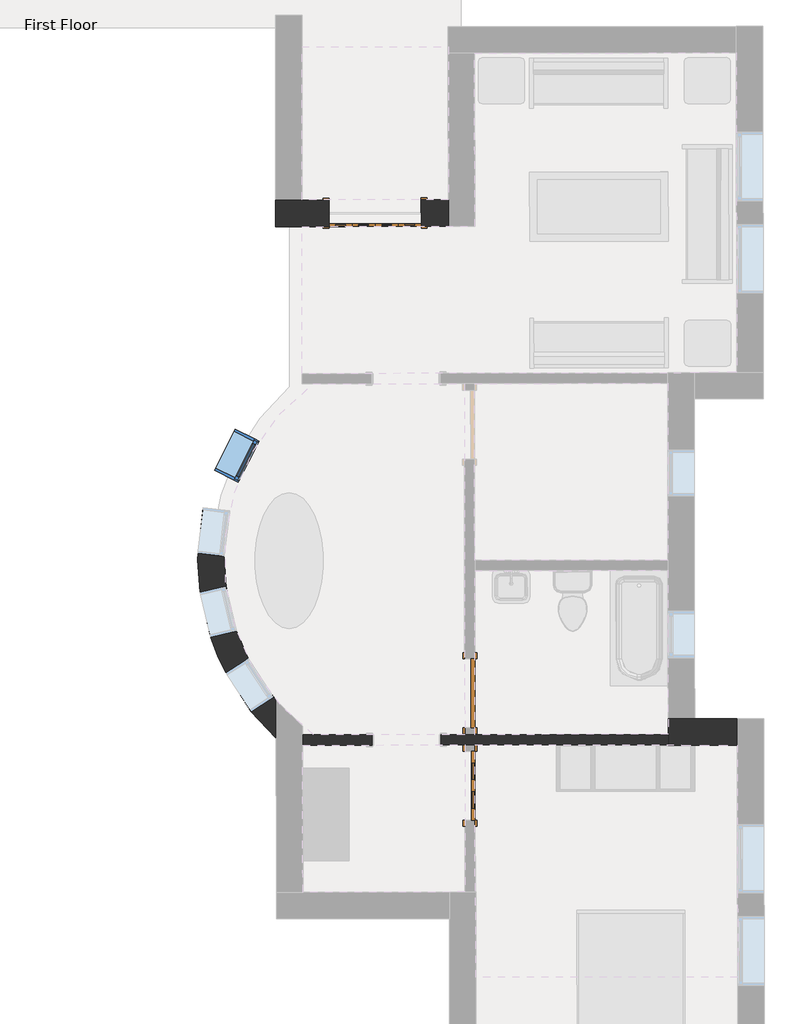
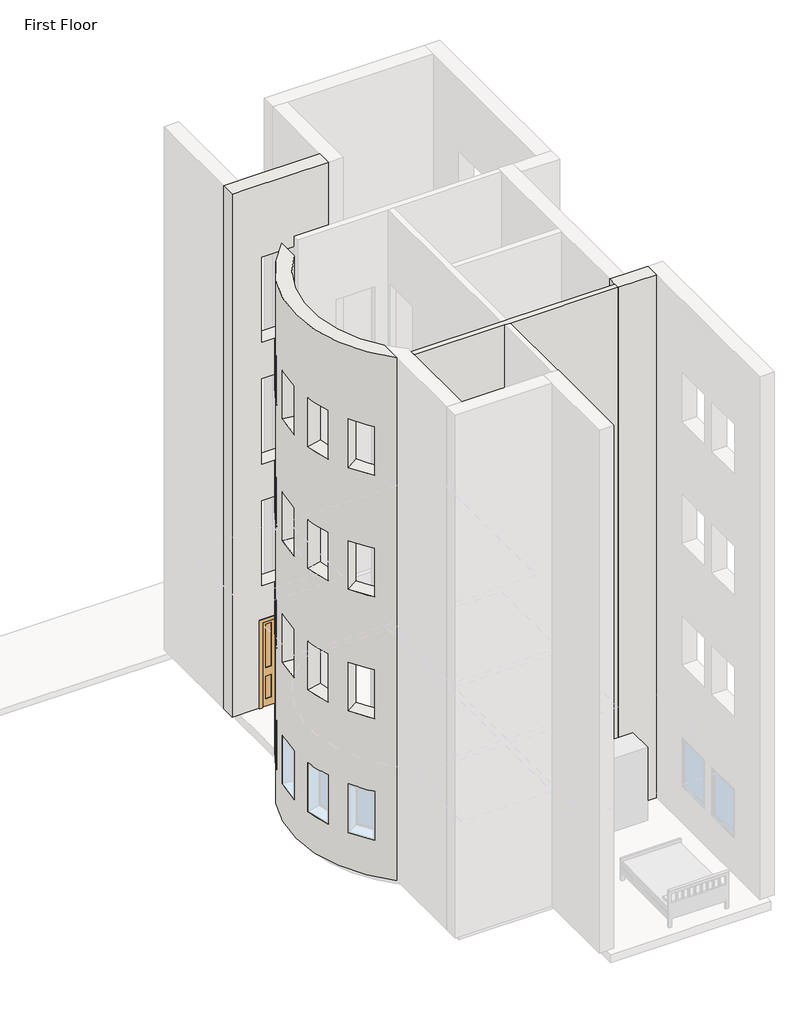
# One storey, part 12 of 22: 4 walls, 3 doors, 1 window.
"""IFC4 building model written with IfcOpenShell, lengths in millimetres."""

from ifc_helpers import new_model, si_unit, frame, origin, place, context, project, spatial, polyline, circle_curve, faceted_brep, transform, mapped, element, save
from ifc_brep_helpers import plane_surface, cylinder_surface, revolved_surface, advanced_brep
from components import m_bifold_4_panel_1220_x_2134mm_cde6dea2, m_single_decorative_2_0915_x_2134mm_0b11df3f, m_single_flush_0915_x_2134mm_08e0827a, m_fixed_0610_x_1220mm_2c28ef1d

model = new_model("IFC4")

# Units and contexts
model_context = context("Model", 3, world=origin())
ifc_project = project(units=[si_unit("LENGTHUNIT", "METRE", prefix="MILLI")], contexts=[model_context])

# Site, building, storey
site = spatial("IfcSite", under=ifc_project)
building = spatial("IfcBuilding", under=site)
storey = spatial("IfcBuildingStorey", under=building, Name="First Floor", Elevation=0.0)

# Doors
placement = place(None, origin())
m_bifold_4_panel_1220_x_2134mm_shape = m_bifold_4_panel_1220_x_2134mm_cde6dea2(model_context)
element("IfcDoor", 1, ObjectType="M_Bifold-4 Panel : 1220 x 2134mm", at=placement, inside=storey, context=model_context, shape_type="MappedRepresentation", body=[
    mapped(m_bifold_4_panel_1220_x_2134mm_shape, transform((-9050.8373063, -8240.6820888, 0.0), x_axis=(0.9999989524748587, 0.0014474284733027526, 0.0), y_axis=(-0.0014474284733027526, 0.9999989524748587, 0.0), z_axis=(0.0, 0.0, 1.0))),
])
m_single_decorative_2_0915_x_2134mm_shape = m_single_decorative_2_0915_x_2134mm_0b11df3f(model_context)
element("IfcDoor", 2, ObjectType="M_Single-Decorative 2 : 0915 x 2134mm", at=placement, inside=storey, context=model_context, shape_type="MappedRepresentation", body=[
    mapped(m_single_decorative_2_0915_x_2134mm_shape, transform((-7796.8898976, -15803.1250115, 0.0), x_axis=(-0.0014474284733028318, 0.9999989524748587, 0.0), y_axis=(-0.9999989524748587, -0.0014474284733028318, 0.0), z_axis=(0.0, 0.0, 1.0))),
])
m_single_flush_0915_x_2134mm_shape = m_single_flush_0915_x_2134mm_08e0827a(model_context)
element("IfcDoor", 3, ObjectType="M_Single-Flush : 0915 x 2134mm", at=placement, inside=storey, context=model_context, shape_type="MappedRepresentation", body=[
    mapped(m_single_flush_0915_x_2134mm_shape, transform((-7798.6557603, -14583.1262895, 0.0), x_axis=(0.0014474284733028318, -0.9999989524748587, 0.0), y_axis=(0.9999989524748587, 0.0014474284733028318, 0.0), z_axis=(0.0, 0.0, 1.0))),
])

# Walls
element("IfcWall", 4, ObjectType="Exterior - Brick on Mtl. Stud", at=placement, inside=storey, context=model_context, shape_type="Brep", body=[
    faceted_brep([(-4263.1691469, -14916.759275, 0.0), (-4827.5685557, -14917.5762036, 0.0), (-5177.5681891, -14918.0828036, 0.0), (-5177.5681891, -14918.0828036, 13107.0), (-4827.5685557, -14917.5762036, 13107.0), (-4263.1691469, -14916.759275, 13107.0), (-4262.662547, -15266.7589083, 0.0), (-4262.662547, -15266.7589083, 13107.0), (-5177.0615891, -15268.0824369, 13107.0), (-5177.0615891, -15268.0824369, 0.0), (-5177.072083, -15260.8324445, 0.0), (-5177.2682095, -15125.3325865, 0.0), (-5177.2682095, -15125.3325865, 13107.0), (-5177.072083, -15260.8324445, 13107.0)], [[[0, 1, 2, 3, 4, 5]], [[6, 7, 8, 9]], [[2, 1, 0, 6, 9, 10, 11]], [[5, 4, 3, 12, 13, 8, 7]], [[0, 5, 7, 6]], [[3, 2, 11, 10, 9, 8, 13, 12]]]),
])
element("IfcWall", 5, ObjectType="Exterior - Brick on Mtl. Stud", at=placement, inside=storey, context=model_context, shape_type="Brep", body=[
    faceted_brep([(-10369.0892257, -8067.5899829, 13107.0), (-10019.0916203, -8067.0833858, 13107.0), (-8083.0916203, -8064.2811614, 13107.0), (-8083.0916203, -8064.2811614, 0.0), (-8441.0912453, -8064.7993408, 0.0), (-8441.0912453, -8064.7993408, 2134.0), (-9661.0899673, -8066.5652035, 2134.0), (-9661.0899673, -8066.5652035, 0.0), (-10019.0916203, -8067.0833858, 0.0), (-10184.0894195, -8067.3222086, 0.0), (-10369.0892257, -8067.5899829, 0.0), (-8441.0912453, -8064.7993408, 9144.0), (-8441.0912453, -8064.7993408, 11278.0), (-9661.0899673, -8066.5652035, 11278.0), (-9661.0899673, -8066.5652035, 9144.0), (-8441.0912453, -8064.7993408, 3048.0), (-8441.0912453, -8064.7993408, 5182.0), (-9661.0899673, -8066.5652035, 5182.0), (-9661.0899673, -8066.5652035, 3048.0), (-8441.0912453, -8064.7993408, 6096.0), (-8441.0912453, -8064.7993408, 8230.0), (-9661.0899673, -8066.5652035, 8230.0), (-9661.0899673, -8066.5652035, 6096.0), (-8082.5850204, -8414.2807948, 13107.0), (-10018.5829924, -8417.0830163, 13107.0), (-10368.5826257, -8417.5896162, 13107.0), (-10368.5826257, -8417.5896162, 0.0), (-10183.5828195, -8417.321842, 0.0), (-10018.5829924, -8417.0830163, 0.0), (-9660.5833674, -8416.5648369, 0.0), (-9660.5833674, -8416.5648369, 2134.0), (-8440.5846453, -8414.7989741, 2134.0), (-8440.5846453, -8414.7989741, 0.0), (-8082.5850204, -8414.2807948, 0.0), (-8440.5846453, -8414.7989741, 9144.0), (-9660.5833674, -8416.5648369, 9144.0), (-9660.5833674, -8416.5648369, 11278.0), (-8440.5846453, -8414.7989741, 11278.0), (-8440.5846453, -8414.7989741, 3048.0), (-9660.5833674, -8416.5648369, 3048.0), (-9660.5833674, -8416.5648369, 5182.0), (-8440.5846453, -8414.7989741, 5182.0), (-8440.5846453, -8414.7989741, 6096.0), (-9660.5833674, -8416.5648369, 6096.0), (-9660.5833674, -8416.5648369, 8230.0), (-8440.5846453, -8414.7989741, 8230.0), (-8440.823471, -8249.799147, 0.0), (-9660.8221931, -8251.5650097, 0.0), (-10368.8214514, -8252.5897891, 0.0), (-10183.8216452, -8252.3220148, 0.0), (-8082.8238461, -8249.2809676, 0.0)], [[[0, 1, 2, 3, 4, 5, 6, 7, 8, 9, 10], [11, 12, 13, 14], [15, 16, 17, 18], [19, 20, 21, 22]], [[23, 24, 25, 26, 27, 28, 29, 30, 31, 32, 33], [34, 35, 36, 37], [38, 39, 40, 41], [42, 43, 44, 45]], [[2, 1, 0, 25, 24, 23]], [[31, 5, 4, 46, 32]], [[5, 31, 30, 6]], [[6, 30, 29, 47, 7]], [[27, 26, 48, 49]], [[49, 9, 8, 7, 47]], [[3, 50, 46, 4]], [[10, 9, 49, 48]], [[12, 11, 34, 37]], [[13, 12, 37, 36]], [[14, 13, 36, 35]], [[11, 14, 35, 34]], [[16, 15, 38, 41]], [[17, 16, 41, 40]], [[18, 17, 40, 39]], [[15, 18, 39, 38]], [[20, 19, 42, 45]], [[21, 20, 45, 44]], [[22, 21, 44, 43]], [[19, 22, 43, 42]], [[3, 2, 23, 33, 50]], [[0, 10, 48, 26, 25]], [[27, 49, 47, 29, 28]], [[50, 33, 32, 46]]]),
])
element("IfcWall", 6, ObjectType="Exterior - Brick on Mtl. Stud", at=placement, inside=storey, context=model_context, shape_type="AdvancedBrep", body=[
    advanced_brep(
    [(-10365.6395377, -10450.9093937, 13107.0), (-10358.7970277, -15178.2606268, 13107.0), (-10359.5284893, -14672.9086878, 13107.0), (-10364.9080761, -10956.2613328, 13107.0), (-10358.7970277, -15178.2606268, 0.0), (-10365.6395377, -10450.9093937, 0.0), (-10364.9080761, -10956.2613328, 0.0), (-10359.5284893, -14672.9086878, 0.0), (-10688.4725524, -14824.0876564, 2135.0), (-10688.4725524, -14824.0876564, 915.0), (-11022.6046276, -14313.7389949, 915.0), (-11022.6046276, -14313.7389949, 2135.0), (-11225.0349817, -13841.7363021, 2135.0), (-11225.0349817, -13841.7363021, 915.0), (-11364.4669047, -13247.8855306, 915.0), (-11364.4669047, -13247.8855306, 2135.0), (-11321.1690093, -12129.3871103, 915.0), (-11321.1690093, -12129.3871103, 2135.0), (-11393.2547862, -12735.1128244, 2135.0), (-11393.2547862, -12735.1128244, 915.0), (-10897.9333065, -11093.1511508, 915.0), (-10897.9333065, -11093.1511508, 2135.0), (-11172.8421746, -11637.6923468, 2135.0), (-11172.8421746, -11637.6923468, 915.0), (-11321.1690093, -12129.3871103, 10059.0), (-11321.1690093, -12129.3871103, 11279.0), (-11393.2547862, -12735.1128244, 11279.0), (-11393.2547862, -12735.1128244, 10059.0), (-10897.9333065, -11093.1511508, 10059.0), (-10897.9333065, -11093.1511508, 11279.0), (-11172.8421746, -11637.6923468, 11279.0), (-11172.8421746, -11637.6923468, 10059.0), (-11225.0349817, -13841.7363021, 10059.0), (-11364.4669047, -13247.8855306, 10059.0), (-11364.4669047, -13247.8855306, 11279.0), (-11225.0349817, -13841.7363021, 11279.0), (-10688.4725524, -14824.0876564, 10059.0), (-11022.6046276, -14313.7389949, 10059.0), (-11022.6046276, -14313.7389949, 11279.0), (-10688.4725524, -14824.0876564, 11279.0), (-11321.1690093, -12129.3871103, 3963.0), (-11321.1690093, -12129.3871103, 5183.0), (-11393.2547862, -12735.1128244, 5183.0), (-11393.2547862, -12735.1128244, 3963.0), (-10897.9333065, -11093.1511508, 3963.0), (-10897.9333065, -11093.1511508, 5183.0), (-11172.8421746, -11637.6923468, 5183.0), (-11172.8421746, -11637.6923468, 3963.0), (-11225.0349817, -13841.7363021, 3963.0), (-11364.4669047, -13247.8855306, 3963.0), (-11364.4669047, -13247.8855306, 5183.0), (-11225.0349817, -13841.7363021, 5183.0), (-10688.4725524, -14824.0876564, 3963.0), (-11022.6046276, -14313.7389949, 3963.0), (-11022.6046276, -14313.7389949, 5183.0), (-10688.4725524, -14824.0876564, 5183.0), (-11321.1690093, -12129.3871103, 7011.0), (-11321.1690093, -12129.3871103, 8231.0), (-11393.2547862, -12735.1128244, 8231.0), (-11393.2547862, -12735.1128244, 7011.0), (-10897.9333065, -11093.1511508, 7011.0), (-10897.9333065, -11093.1511508, 8231.0), (-11172.8421746, -11637.6923468, 8231.0), (-11172.8421746, -11637.6923468, 7011.0), (-11225.0349817, -13841.7363021, 7011.0), (-11364.4669047, -13247.8855306, 7011.0), (-11364.4669047, -13247.8855306, 8231.0), (-11225.0349817, -13841.7363021, 8231.0), (-10688.4725524, -14824.0876564, 7011.0), (-11022.6046276, -14313.7389949, 7011.0), (-11022.6046276, -14313.7389949, 8231.0), (-10688.4725524, -14824.0876564, 8231.0), (-10394.1674377, -14631.4021728, 915.0), (-10394.1674377, -14631.4021728, 2135.0), (-10728.2995129, -14121.0535112, 2135.0), (-10728.2995129, -14121.0535112, 915.0), (-10882.5763205, -13761.3294525, 915.0), (-10882.5763205, -13761.3294525, 2135.0), (-11022.0082435, -13167.4786809, 2135.0), (-11022.0082435, -13167.4786809, 915.0), (-10971.8623702, -12170.9571474, 915.0), (-11043.948147, -12776.6828616, 915.0), (-11043.948147, -12776.6828616, 2135.0), (-10971.8623702, -12170.9571474, 2135.0), (-10583.9102253, -11251.6841147, 915.0), (-10858.8190935, -11796.2253108, 915.0), (-10858.8190935, -11796.2253108, 2135.0), (-10583.9102253, -11251.6841147, 2135.0), (-10971.8623702, -12170.9571474, 10059.0), (-11043.948147, -12776.6828616, 10059.0), (-11043.948147, -12776.6828616, 11279.0), (-10971.8623702, -12170.9571474, 11279.0), (-10583.9102253, -11251.6841147, 10059.0), (-10858.8190935, -11796.2253108, 10059.0), (-10858.8190935, -11796.2253108, 11279.0), (-10583.9102253, -11251.6841147, 11279.0), (-10882.5763205, -13761.3294525, 10059.0), (-10882.5763205, -13761.3294525, 11279.0), (-11022.0082435, -13167.4786809, 11279.0), (-11022.0082435, -13167.4786809, 10059.0), (-10394.1674377, -14631.4021728, 10059.0), (-10394.1674377, -14631.4021728, 11279.0), (-10728.2995129, -14121.0535112, 11279.0), (-10728.2995129, -14121.0535112, 10059.0), (-10971.8623702, -12170.9571474, 3963.0), (-11043.948147, -12776.6828616, 3963.0), (-11043.948147, -12776.6828616, 5183.0), (-10971.8623702, -12170.9571474, 5183.0), (-10583.9102253, -11251.6841147, 3963.0), (-10858.8190935, -11796.2253108, 3963.0), (-10858.8190935, -11796.2253108, 5183.0), (-10583.9102253, -11251.6841147, 5183.0), (-10882.5763205, -13761.3294525, 3963.0), (-10882.5763205, -13761.3294525, 5183.0), (-11022.0082435, -13167.4786809, 5183.0), (-11022.0082435, -13167.4786809, 3963.0), (-10394.1674377, -14631.4021728, 3963.0), (-10394.1674377, -14631.4021728, 5183.0), (-10728.2995129, -14121.0535112, 5183.0), (-10728.2995129, -14121.0535112, 3963.0), (-10971.8623702, -12170.9571474, 7011.0), (-11043.948147, -12776.6828616, 7011.0), (-11043.948147, -12776.6828616, 8231.0), (-10971.8623702, -12170.9571474, 8231.0), (-10583.9102253, -11251.6841147, 7011.0), (-10858.8190935, -11796.2253108, 7011.0), (-10858.8190935, -11796.2253108, 8231.0), (-10583.9102253, -11251.6841147, 8231.0), (-10882.5763205, -13761.3294525, 7011.0), (-10882.5763205, -13761.3294525, 8231.0), (-11022.0082435, -13167.4786809, 8231.0), (-11022.0082435, -13167.4786809, 7011.0), (-10394.1674377, -14631.4021728, 7011.0), (-10394.1674377, -14631.4021728, 8231.0), (-10728.2995129, -14121.0535112, 8231.0), (-10728.2995129, -14121.0535112, 7011.0)],
    [
        (0, 1, circle_curve(frame((-8171.1580789, -12811.413604, 13107.0), z_axis=(0.0, 0.0, 1.0), x_axis=(-0.0014474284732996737, 0.9999989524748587, 0.0)), 3223.0)),
        (1, 2),
        (2, 3, circle_curve(frame((-8171.1580789, -12811.413604, 13107.0), z_axis=(0.0, 0.0, -1.0), x_axis=(-0.0014474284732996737, 0.9999989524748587, 0.0)), 2873.0)),
        (3, 0),
        (4, 5, circle_curve(frame((-8171.1580789, -12811.413604, 0.0), z_axis=(0.0, 0.0, -1.0), x_axis=(-0.0014474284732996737, 0.9999989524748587, 0.0)), 3223.0)),
        (5, 6),
        (6, 7, circle_curve(frame((-8171.1580789, -12811.413604, 0.0), z_axis=(0.0, 0.0, 1.0), x_axis=(-0.0014474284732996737, 0.9999989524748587, 0.0)), 2873.0)),
        (7, 4),
        (0, 5),
        (4, 1),
        (8, 9),
        (9, 10, circle_curve(frame((-8171.1580789, -12811.413604, 915.0), z_axis=(0.0, 0.0, -1.0), x_axis=(-0.0014474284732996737, 0.9999989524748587, 0.0)), 3223.0)),
        (10, 11),
        (11, 8, circle_curve(frame((-8171.1580789, -12811.413604, 2135.0), z_axis=(0.0, 0.0, 1.0), x_axis=(-0.0014474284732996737, 0.9999989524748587, 0.0)), 3223.0)),
        (12, 13),
        (13, 14, circle_curve(frame((-8171.1580789, -12811.413604, 915.0), z_axis=(0.0, 0.0, -1.0), x_axis=(-0.0014474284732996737, 0.9999989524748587, 0.0)), 3223.0)),
        (14, 15),
        (15, 12, circle_curve(frame((-8171.1580789, -12811.413604, 2135.0), z_axis=(0.0, 0.0, 1.0), x_axis=(-0.0014474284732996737, 0.9999989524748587, 0.0)), 3223.0)),
        (16, 17),
        (17, 18, circle_curve(frame((-8171.1580789, -12811.413604, 2135.0), z_axis=(0.0, 0.0, 1.0), x_axis=(-0.0014474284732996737, 0.9999989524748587, 0.0)), 3223.0)),
        (18, 19),
        (19, 16, circle_curve(frame((-8171.1580789, -12811.413604, 915.0), z_axis=(0.0, 0.0, -1.0), x_axis=(-0.0014474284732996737, 0.9999989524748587, 0.0)), 3223.0)),
        (20, 21),
        (21, 22, circle_curve(frame((-8171.1580789, -12811.413604, 2135.0), z_axis=(0.0, 0.0, 1.0), x_axis=(-0.0014474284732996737, 0.9999989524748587, 0.0)), 3223.0)),
        (22, 23),
        (23, 20, circle_curve(frame((-8171.1580789, -12811.413604, 915.0), z_axis=(0.0, 0.0, -1.0), x_axis=(-0.0014474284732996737, 0.9999989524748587, 0.0)), 3223.0)),
        (24, 25),
        (25, 26, circle_curve(frame((-8171.1580789, -12811.413604, 11279.0), z_axis=(0.0, 0.0, 1.0), x_axis=(-0.0014474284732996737, 0.9999989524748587, 0.0)), 3223.0)),
        (26, 27),
        (27, 24, circle_curve(frame((-8171.1580789, -12811.413604, 10059.0), z_axis=(0.0, 0.0, -1.0), x_axis=(-0.0014474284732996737, 0.9999989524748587, 0.0)), 3223.0)),
        (28, 29),
        (29, 30, circle_curve(frame((-8171.1580789, -12811.413604, 11279.0), z_axis=(0.0, 0.0, 1.0), x_axis=(-0.0014474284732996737, 0.9999989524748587, 0.0)), 3223.0)),
        (30, 31),
        (31, 28, circle_curve(frame((-8171.1580789, -12811.413604, 10059.0), z_axis=(0.0, 0.0, -1.0), x_axis=(-0.0014474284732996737, 0.9999989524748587, 0.0)), 3223.0)),
        (32, 33, circle_curve(frame((-8171.1580789, -12811.413604, 10059.0), z_axis=(0.0, 0.0, -1.0), x_axis=(-0.0014474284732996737, 0.9999989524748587, 0.0)), 3223.0)),
        (33, 34),
        (34, 35, circle_curve(frame((-8171.1580789, -12811.413604, 11279.0), z_axis=(0.0, 0.0, 1.0), x_axis=(-0.0014474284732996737, 0.9999989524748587, 0.0)), 3223.0)),
        (35, 32),
        (36, 37, circle_curve(frame((-8171.1580789, -12811.413604, 10059.0), z_axis=(0.0, 0.0, -1.0), x_axis=(-0.0014474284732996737, 0.9999989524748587, 0.0)), 3223.0)),
        (37, 38),
        (38, 39, circle_curve(frame((-8171.1580789, -12811.413604, 11279.0), z_axis=(0.0, 0.0, 1.0), x_axis=(-0.0014474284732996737, 0.9999989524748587, 0.0)), 3223.0)),
        (39, 36),
        (40, 41),
        (41, 42, circle_curve(frame((-8171.1580789, -12811.413604, 5183.0), z_axis=(0.0, 0.0, 1.0), x_axis=(-0.0014474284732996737, 0.9999989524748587, 0.0)), 3223.0)),
        (42, 43),
        (43, 40, circle_curve(frame((-8171.1580789, -12811.413604, 3963.0), z_axis=(0.0, 0.0, -1.0), x_axis=(-0.0014474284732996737, 0.9999989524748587, 0.0)), 3223.0)),
        (44, 45),
        (45, 46, circle_curve(frame((-8171.1580789, -12811.413604, 5183.0), z_axis=(0.0, 0.0, 1.0), x_axis=(-0.0014474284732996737, 0.9999989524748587, 0.0)), 3223.0)),
        (46, 47),
        (47, 44, circle_curve(frame((-8171.1580789, -12811.413604, 3963.0), z_axis=(0.0, 0.0, -1.0), x_axis=(-0.0014474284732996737, 0.9999989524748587, 0.0)), 3223.0)),
        (48, 49, circle_curve(frame((-8171.1580789, -12811.413604, 3963.0), z_axis=(0.0, 0.0, -1.0), x_axis=(-0.0014474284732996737, 0.9999989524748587, 0.0)), 3223.0)),
        (49, 50),
        (50, 51, circle_curve(frame((-8171.1580789, -12811.413604, 5183.0), z_axis=(0.0, 0.0, 1.0), x_axis=(-0.0014474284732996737, 0.9999989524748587, 0.0)), 3223.0)),
        (51, 48),
        (52, 53, circle_curve(frame((-8171.1580789, -12811.413604, 3963.0), z_axis=(0.0, 0.0, -1.0), x_axis=(-0.0014474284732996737, 0.9999989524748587, 0.0)), 3223.0)),
        (53, 54),
        (54, 55, circle_curve(frame((-8171.1580789, -12811.413604, 5183.0), z_axis=(0.0, 0.0, 1.0), x_axis=(-0.0014474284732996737, 0.9999989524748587, 0.0)), 3223.0)),
        (55, 52),
        (56, 57),
        (57, 58, circle_curve(frame((-8171.1580789, -12811.413604, 8231.0), z_axis=(0.0, 0.0, 1.0), x_axis=(-0.0014474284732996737, 0.9999989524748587, 0.0)), 3223.0)),
        (58, 59),
        (59, 56, circle_curve(frame((-8171.1580789, -12811.413604, 7011.0), z_axis=(0.0, 0.0, -1.0), x_axis=(-0.0014474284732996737, 0.9999989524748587, 0.0)), 3223.0)),
        (60, 61),
        (61, 62, circle_curve(frame((-8171.1580789, -12811.413604, 8231.0), z_axis=(0.0, 0.0, 1.0), x_axis=(-0.0014474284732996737, 0.9999989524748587, 0.0)), 3223.0)),
        (62, 63),
        (63, 60, circle_curve(frame((-8171.1580789, -12811.413604, 7011.0), z_axis=(0.0, 0.0, -1.0), x_axis=(-0.0014474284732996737, 0.9999989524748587, 0.0)), 3223.0)),
        (64, 65, circle_curve(frame((-8171.1580789, -12811.413604, 7011.0), z_axis=(0.0, 0.0, -1.0), x_axis=(-0.0014474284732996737, 0.9999989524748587, 0.0)), 3223.0)),
        (65, 66),
        (66, 67, circle_curve(frame((-8171.1580789, -12811.413604, 8231.0), z_axis=(0.0, 0.0, 1.0), x_axis=(-0.0014474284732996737, 0.9999989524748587, 0.0)), 3223.0)),
        (67, 64),
        (68, 69, circle_curve(frame((-8171.1580789, -12811.413604, 7011.0), z_axis=(0.0, 0.0, -1.0), x_axis=(-0.0014474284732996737, 0.9999989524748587, 0.0)), 3223.0)),
        (69, 70),
        (70, 71, circle_curve(frame((-8171.1580789, -12811.413604, 8231.0), z_axis=(0.0, 0.0, 1.0), x_axis=(-0.0014474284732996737, 0.9999989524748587, 0.0)), 3223.0)),
        (71, 68),
        (2, 7),
        (6, 3),
        (72, 73),
        (73, 74, circle_curve(frame((-8171.1580789, -12811.413604, 2135.0), z_axis=(0.0, 0.0, -1.0), x_axis=(-0.0014474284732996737, 0.9999989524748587, 0.0)), 2873.0)),
        (74, 75),
        (75, 72, circle_curve(frame((-8171.1580789, -12811.413604, 915.0), z_axis=(0.0, 0.0, 1.0), x_axis=(-0.0014474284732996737, 0.9999989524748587, 0.0)), 2873.0)),
        (76, 77),
        (77, 78, circle_curve(frame((-8171.1580789, -12811.413604, 2135.0), z_axis=(0.0, 0.0, -1.0), x_axis=(-0.0014474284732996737, 0.9999989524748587, 0.0)), 2873.0)),
        (78, 79),
        (79, 76, circle_curve(frame((-8171.1580789, -12811.413604, 915.0), z_axis=(0.0, 0.0, 1.0), x_axis=(-0.0014474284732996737, 0.9999989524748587, 0.0)), 2873.0)),
        (80, 81, circle_curve(frame((-8171.1580789, -12811.413604, 915.0), z_axis=(0.0, 0.0, 1.0), x_axis=(-0.0014474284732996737, 0.9999989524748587, 0.0)), 2873.0)),
        (81, 82),
        (82, 83, circle_curve(frame((-8171.1580789, -12811.413604, 2135.0), z_axis=(0.0, 0.0, -1.0), x_axis=(-0.0014474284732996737, 0.9999989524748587, 0.0)), 2873.0)),
        (83, 80),
        (84, 85, circle_curve(frame((-8171.1580789, -12811.413604, 915.0), z_axis=(0.0, 0.0, 1.0), x_axis=(-0.0014474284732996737, 0.9999989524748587, 0.0)), 2873.0)),
        (85, 86),
        (86, 87, circle_curve(frame((-8171.1580789, -12811.413604, 2135.0), z_axis=(0.0, 0.0, -1.0), x_axis=(-0.0014474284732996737, 0.9999989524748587, 0.0)), 2873.0)),
        (87, 84),
        (88, 89, circle_curve(frame((-8171.1580789, -12811.413604, 10059.0), z_axis=(0.0, 0.0, 1.0), x_axis=(-0.0014474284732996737, 0.9999989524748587, 0.0)), 2873.0)),
        (89, 90),
        (90, 91, circle_curve(frame((-8171.1580789, -12811.413604, 11279.0), z_axis=(0.0, 0.0, -1.0), x_axis=(-0.0014474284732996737, 0.9999989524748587, 0.0)), 2873.0)),
        (91, 88),
        (92, 93, circle_curve(frame((-8171.1580789, -12811.413604, 10059.0), z_axis=(0.0, 0.0, 1.0), x_axis=(-0.0014474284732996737, 0.9999989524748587, 0.0)), 2873.0)),
        (93, 94),
        (94, 95, circle_curve(frame((-8171.1580789, -12811.413604, 11279.0), z_axis=(0.0, 0.0, -1.0), x_axis=(-0.0014474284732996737, 0.9999989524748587, 0.0)), 2873.0)),
        (95, 92),
        (96, 97),
        (97, 98, circle_curve(frame((-8171.1580789, -12811.413604, 11279.0), z_axis=(0.0, 0.0, -1.0), x_axis=(-0.0014474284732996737, 0.9999989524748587, 0.0)), 2873.0)),
        (98, 99),
        (99, 96, circle_curve(frame((-8171.1580789, -12811.413604, 10059.0), z_axis=(0.0, 0.0, 1.0), x_axis=(-0.0014474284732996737, 0.9999989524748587, 0.0)), 2873.0)),
        (100, 101),
        (101, 102, circle_curve(frame((-8171.1580789, -12811.413604, 11279.0), z_axis=(0.0, 0.0, -1.0), x_axis=(-0.0014474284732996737, 0.9999989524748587, 0.0)), 2873.0)),
        (102, 103),
        (103, 100, circle_curve(frame((-8171.1580789, -12811.413604, 10059.0), z_axis=(0.0, 0.0, 1.0), x_axis=(-0.0014474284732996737, 0.9999989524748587, 0.0)), 2873.0)),
        (104, 105, circle_curve(frame((-8171.1580789, -12811.413604, 3963.0), z_axis=(0.0, 0.0, 1.0), x_axis=(-0.0014474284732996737, 0.9999989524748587, 0.0)), 2873.0)),
        (105, 106),
        (106, 107, circle_curve(frame((-8171.1580789, -12811.413604, 5183.0), z_axis=(0.0, 0.0, -1.0), x_axis=(-0.0014474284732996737, 0.9999989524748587, 0.0)), 2873.0)),
        (107, 104),
        (108, 109, circle_curve(frame((-8171.1580789, -12811.413604, 3963.0), z_axis=(0.0, 0.0, 1.0), x_axis=(-0.0014474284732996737, 0.9999989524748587, 0.0)), 2873.0)),
        (109, 110),
        (110, 111, circle_curve(frame((-8171.1580789, -12811.413604, 5183.0), z_axis=(0.0, 0.0, -1.0), x_axis=(-0.0014474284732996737, 0.9999989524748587, 0.0)), 2873.0)),
        (111, 108),
        (112, 113),
        (113, 114, circle_curve(frame((-8171.1580789, -12811.413604, 5183.0), z_axis=(0.0, 0.0, -1.0), x_axis=(-0.0014474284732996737, 0.9999989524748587, 0.0)), 2873.0)),
        (114, 115),
        (115, 112, circle_curve(frame((-8171.1580789, -12811.413604, 3963.0), z_axis=(0.0, 0.0, 1.0), x_axis=(-0.0014474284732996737, 0.9999989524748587, 0.0)), 2873.0)),
        (116, 117),
        (117, 118, circle_curve(frame((-8171.1580789, -12811.413604, 5183.0), z_axis=(0.0, 0.0, -1.0), x_axis=(-0.0014474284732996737, 0.9999989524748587, 0.0)), 2873.0)),
        (118, 119),
        (119, 116, circle_curve(frame((-8171.1580789, -12811.413604, 3963.0), z_axis=(0.0, 0.0, 1.0), x_axis=(-0.0014474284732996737, 0.9999989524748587, 0.0)), 2873.0)),
        (120, 121, circle_curve(frame((-8171.1580789, -12811.413604, 7011.0), z_axis=(0.0, 0.0, 1.0), x_axis=(-0.0014474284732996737, 0.9999989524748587, 0.0)), 2873.0)),
        (121, 122),
        (122, 123, circle_curve(frame((-8171.1580789, -12811.413604, 8231.0), z_axis=(0.0, 0.0, -1.0), x_axis=(-0.0014474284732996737, 0.9999989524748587, 0.0)), 2873.0)),
        (123, 120),
        (124, 125, circle_curve(frame((-8171.1580789, -12811.413604, 7011.0), z_axis=(0.0, 0.0, 1.0), x_axis=(-0.0014474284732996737, 0.9999989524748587, 0.0)), 2873.0)),
        (125, 126),
        (126, 127, circle_curve(frame((-8171.1580789, -12811.413604, 8231.0), z_axis=(0.0, 0.0, -1.0), x_axis=(-0.0014474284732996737, 0.9999989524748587, 0.0)), 2873.0)),
        (127, 124),
        (128, 129),
        (129, 130, circle_curve(frame((-8171.1580789, -12811.413604, 8231.0), z_axis=(0.0, 0.0, -1.0), x_axis=(-0.0014474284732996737, 0.9999989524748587, 0.0)), 2873.0)),
        (130, 131),
        (131, 128, circle_curve(frame((-8171.1580789, -12811.413604, 7011.0), z_axis=(0.0, 0.0, 1.0), x_axis=(-0.0014474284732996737, 0.9999989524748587, 0.0)), 2873.0)),
        (132, 133),
        (133, 134, circle_curve(frame((-8171.1580789, -12811.413604, 8231.0), z_axis=(0.0, 0.0, -1.0), x_axis=(-0.0014474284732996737, 0.9999989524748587, 0.0)), 2873.0)),
        (134, 135),
        (135, 132, circle_curve(frame((-8171.1580789, -12811.413604, 7011.0), z_axis=(0.0, 0.0, 1.0), x_axis=(-0.0014474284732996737, 0.9999989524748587, 0.0)), 2873.0)),
        (72, 9),
        (8, 73),
        (11, 74),
        (10, 75),
        (76, 13),
        (12, 77),
        (15, 78),
        (14, 79),
        (16, 80),
        (83, 17),
        (82, 18),
        (81, 19),
        (20, 84),
        (87, 21),
        (86, 22),
        (85, 23),
        (24, 88),
        (91, 25),
        (90, 26),
        (89, 27),
        (28, 92),
        (95, 29),
        (94, 30),
        (93, 31),
        (96, 32),
        (35, 97),
        (34, 98),
        (33, 99),
        (100, 36),
        (39, 101),
        (38, 102),
        (37, 103),
        (40, 104),
        (107, 41),
        (106, 42),
        (105, 43),
        (44, 108),
        (111, 45),
        (110, 46),
        (109, 47),
        (112, 48),
        (51, 113),
        (50, 114),
        (49, 115),
        (116, 52),
        (55, 117),
        (54, 118),
        (53, 119),
        (56, 120),
        (123, 57),
        (122, 58),
        (121, 59),
        (60, 124),
        (127, 61),
        (126, 62),
        (125, 63),
        (128, 64),
        (67, 129),
        (66, 130),
        (65, 131),
        (132, 68),
        (71, 133),
        (70, 134),
        (69, 135),
    ],
    [
        plane_surface(frame((-8175.8231409, -9588.4169802, 13107.0), z_axis=(0.0, 0.0, 1.0000000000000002), x_axis=(-0.9999989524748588, -0.0014474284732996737, 0.0))),
        plane_surface(frame((-8175.8231409, -9588.4169802, 0.0), z_axis=(0.0, 0.0, -1.0000000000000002), x_axis=(0.9999989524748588, 0.0014474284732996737, 0.0))),
        cylinder_surface(frame((-8171.1580789, -12811.413604, 0.0), z_axis=(0.0, 0.0, 1.0), x_axis=(-0.0014474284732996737, 0.9999989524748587, 0.0)), 3223.0),
        revolved_surface(polyline([(-8175.31654090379, -9938.41661353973, 0.0), (-8175.31654090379, -9938.41661353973, 13107.0)]), (-8171.1580789, -12811.413604, 0.0), (0.0, 0.0, -1.0)),
        plane_surface(frame((-10368.8359257, -8242.5897996, 0.0), z_axis=(0.9999989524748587, 0.0014474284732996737, 0.0), x_axis=(0.0014474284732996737, -0.9999989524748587, 0.0))),
        plane_surface(frame((-10355.6006397, -17386.580221, 0.0), z_axis=(0.9999989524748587, 0.0014474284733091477, 0.0), x_axis=(0.0014474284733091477, -0.9999989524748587, 0.0))),
        plane_surface(frame((-10394.1674377, -14631.4021728, 915.0), z_axis=(-0.5477575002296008, 0.8366371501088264, 0.0), x_axis=(-0.8366371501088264, -0.5477575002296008, 0.0))),
        plane_surface(frame((-10394.1674377, -14631.4021728, 2135.0), z_axis=(0.0, 0.0, -1.0), x_axis=(-0.8366371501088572, -0.5477575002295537, 0.0))),
        plane_surface(frame((-10728.2995129, -14121.0535112, 2135.0), z_axis=(0.5477575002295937, -0.8366371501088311, 0.0), x_axis=(-0.8366371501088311, -0.5477575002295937, 0.0))),
        plane_surface(frame((-10728.2995129, -14121.0535112, 915.0), z_axis=(0.0, 0.0, 1.0), x_axis=(-0.8366371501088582, -0.5477575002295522, 0.0))),
        plane_surface(frame((-12708.6883847, -14190.0875327, 915.0), z_axis=(-0.2285769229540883, 0.9735258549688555, 0.0), x_axis=(0.9735258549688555, 0.2285769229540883, 0.0))),
        plane_surface(frame((-12708.6883847, -14190.0875327, 2135.0), z_axis=(0.0, 0.0, -1.0), x_axis=(0.9735258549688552, 0.22857692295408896, 0.0))),
        plane_surface(frame((-12848.1203077, -13596.2367612, 2135.0), z_axis=(0.2285769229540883, -0.9735258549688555, 0.0), x_axis=(0.9735258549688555, 0.2285769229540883, 0.0))),
        plane_surface(frame((-12848.1203077, -13596.2367612, 915.0), z_axis=(0.0, 0.0, 1.0000000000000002), x_axis=(0.9735258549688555, 0.2285769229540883, 0.0))),
        plane_surface(frame((-11321.1690093, -12129.3871103, 915.0), z_axis=(-0.11817340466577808, -0.9929929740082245, 0.0), x_axis=(0.9929929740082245, -0.11817340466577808, 0.0))),
        plane_surface(frame((-11321.1690093, -12129.3871103, 2135.0), z_axis=(0.0, 0.0, -1.0), x_axis=(0.9929929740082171, -0.11817340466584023, 0.0))),
        plane_surface(frame((-11393.2547862, -12735.1128244, 2135.0), z_axis=(0.11817340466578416, 0.9929929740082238, 0.0), x_axis=(0.9929929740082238, -0.11817340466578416, 0.0))),
        plane_surface(frame((-11393.2547862, -12735.1128244, 915.0), z_axis=(0.0, 0.0, 1.0000000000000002), x_axis=(0.9929929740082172, -0.11817340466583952, 0.0))),
        plane_surface(frame((-10897.9333065, -11093.1511508, 915.0), z_axis=(-0.450670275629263, -0.8926904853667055, 0.0), x_axis=(0.8926904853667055, -0.450670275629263, 0.0))),
        plane_surface(frame((-10897.9333065, -11093.1511508, 2135.0), z_axis=(0.0, 0.0, -1.0), x_axis=(0.8926904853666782, -0.4506702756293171, 0.0))),
        plane_surface(frame((-11172.8421746, -11637.6923468, 2135.0), z_axis=(0.4506702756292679, 0.8926904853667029, 0.0), x_axis=(0.8926904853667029, -0.4506702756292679, 0.0))),
        plane_surface(frame((-11172.8421746, -11637.6923468, 915.0), z_axis=(0.0, 0.0, 1.0000000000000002), x_axis=(0.8926904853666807, -0.45067027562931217, 0.0))),
        plane_surface(frame((-11321.1690093, -12129.3871103, 10059.0), z_axis=(-0.11817340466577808, -0.9929929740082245, 0.0), x_axis=(0.9929929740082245, -0.11817340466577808, 0.0))),
        plane_surface(frame((-11321.1690093, -12129.3871103, 11279.0), z_axis=(0.0, 0.0, -1.0000000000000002), x_axis=(0.9929929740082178, -0.11817340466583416, 0.0))),
        plane_surface(frame((-11393.2547862, -12735.1128244, 11279.0), z_axis=(0.11817340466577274, 0.9929929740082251, 0.0), x_axis=(0.9929929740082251, -0.11817340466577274, 0.0))),
        plane_surface(frame((-11393.2547862, -12735.1128244, 10059.0), z_axis=(0.0, 0.0, 1.0), x_axis=(0.992992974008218, -0.11817340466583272, 0.0))),
        plane_surface(frame((-10897.9333065, -11093.1511508, 10059.0), z_axis=(-0.45067027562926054, -0.8926904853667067, 0.0), x_axis=(0.8926904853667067, -0.45067027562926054, 0.0))),
        plane_surface(frame((-10897.9333065, -11093.1511508, 11279.0), z_axis=(0.0, 0.0, -1.0), x_axis=(0.892690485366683, -0.4506702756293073, 0.0))),
        plane_surface(frame((-11172.8421746, -11637.6923468, 11279.0), z_axis=(0.45067027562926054, 0.8926904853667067, 0.0), x_axis=(0.8926904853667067, -0.45067027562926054, 0.0))),
        plane_surface(frame((-11172.8421746, -11637.6923468, 10059.0), z_axis=(0.0, 0.0, 1.0000000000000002), x_axis=(0.8926904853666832, -0.4506702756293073, 0.0))),
        plane_surface(frame((-10882.5763205, -13761.3294525, 10059.0), z_axis=(-0.22857692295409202, 0.9735258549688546, 0.0), x_axis=(-0.9735258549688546, -0.22857692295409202, 0.0))),
        plane_surface(frame((-10882.5763205, -13761.3294525, 11279.0), z_axis=(0.0, 0.0, -1.0), x_axis=(-0.9735258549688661, -0.22857692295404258, 0.0))),
        plane_surface(frame((-11022.0082435, -13167.4786809, 11279.0), z_axis=(0.22857692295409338, -0.9735258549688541, 0.0), x_axis=(-0.9735258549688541, -0.22857692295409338, 0.0))),
        plane_surface(frame((-11022.0082435, -13167.4786809, 10059.0), z_axis=(0.0, 0.0, 1.0), x_axis=(-0.9735258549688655, -0.22857692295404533, 0.0))),
        plane_surface(frame((-10394.1674377, -14631.4021728, 10059.0), z_axis=(-0.5477575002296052, 0.8366371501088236, 0.0), x_axis=(-0.8366371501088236, -0.5477575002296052, 0.0))),
        plane_surface(frame((-10394.1674377, -14631.4021728, 11279.0), z_axis=(0.0, 0.0, -1.0000000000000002), x_axis=(-0.8366371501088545, -0.547757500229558, 0.0))),
        plane_surface(frame((-10728.2995129, -14121.0535112, 11279.0), z_axis=(0.547757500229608, -0.8366371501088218, 0.0), x_axis=(-0.8366371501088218, -0.547757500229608, 0.0))),
        plane_surface(frame((-10728.2995129, -14121.0535112, 10059.0), z_axis=(0.0, 0.0, 1.0), x_axis=(-0.8366371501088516, -0.5477575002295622, 0.0))),
        plane_surface(frame((-11321.1690093, -12129.3871103, 3963.0), z_axis=(-0.11817340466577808, -0.9929929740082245, 0.0), x_axis=(0.9929929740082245, -0.11817340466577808, 0.0))),
        plane_surface(frame((-11321.1690093, -12129.3871103, 5183.0), z_axis=(0.0, 0.0, -1.0000000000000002), x_axis=(0.9929929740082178, -0.11817340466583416, 0.0))),
        plane_surface(frame((-11393.2547862, -12735.1128244, 5183.0), z_axis=(0.11817340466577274, 0.9929929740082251, 0.0), x_axis=(0.9929929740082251, -0.11817340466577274, 0.0))),
        plane_surface(frame((-11393.2547862, -12735.1128244, 3963.0), z_axis=(0.0, 0.0, 1.0), x_axis=(0.992992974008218, -0.11817340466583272, 0.0))),
        plane_surface(frame((-10897.9333065, -11093.1511508, 3963.0), z_axis=(-0.45067027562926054, -0.8926904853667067, 0.0), x_axis=(0.8926904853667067, -0.45067027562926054, 0.0))),
        plane_surface(frame((-10897.9333065, -11093.1511508, 5183.0), z_axis=(0.0, 0.0, -1.0), x_axis=(0.892690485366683, -0.4506702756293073, 0.0))),
        plane_surface(frame((-11172.8421746, -11637.6923468, 5183.0), z_axis=(0.45067027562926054, 0.8926904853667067, 0.0), x_axis=(0.8926904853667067, -0.45067027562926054, 0.0))),
        plane_surface(frame((-11172.8421746, -11637.6923468, 3963.0), z_axis=(0.0, 0.0, 1.0000000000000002), x_axis=(0.8926904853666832, -0.4506702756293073, 0.0))),
        plane_surface(frame((-10882.5763205, -13761.3294525, 3963.0), z_axis=(-0.22857692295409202, 0.9735258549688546, 0.0), x_axis=(-0.9735258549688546, -0.22857692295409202, 0.0))),
        plane_surface(frame((-10882.5763205, -13761.3294525, 5183.0), z_axis=(0.0, 0.0, -1.0), x_axis=(-0.9735258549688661, -0.22857692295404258, 0.0))),
        plane_surface(frame((-11022.0082435, -13167.4786809, 5183.0), z_axis=(0.22857692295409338, -0.9735258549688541, 0.0), x_axis=(-0.9735258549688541, -0.22857692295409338, 0.0))),
        plane_surface(frame((-11022.0082435, -13167.4786809, 3963.0), z_axis=(0.0, 0.0, 1.0), x_axis=(-0.9735258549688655, -0.22857692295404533, 0.0))),
        plane_surface(frame((-10394.1674377, -14631.4021728, 3963.0), z_axis=(-0.5477575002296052, 0.8366371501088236, 0.0), x_axis=(-0.8366371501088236, -0.5477575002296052, 0.0))),
        plane_surface(frame((-10394.1674377, -14631.4021728, 5183.0), z_axis=(0.0, 0.0, -1.0000000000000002), x_axis=(-0.8366371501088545, -0.547757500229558, 0.0))),
        plane_surface(frame((-10728.2995129, -14121.0535112, 5183.0), z_axis=(0.547757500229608, -0.8366371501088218, 0.0), x_axis=(-0.8366371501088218, -0.547757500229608, 0.0))),
        plane_surface(frame((-10728.2995129, -14121.0535112, 3963.0), z_axis=(0.0, 0.0, 1.0), x_axis=(-0.8366371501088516, -0.5477575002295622, 0.0))),
        plane_surface(frame((-11321.1690093, -12129.3871103, 7011.0), z_axis=(-0.11817340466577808, -0.9929929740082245, 0.0), x_axis=(0.9929929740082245, -0.11817340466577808, 0.0))),
        plane_surface(frame((-11321.1690093, -12129.3871103, 8231.0), z_axis=(0.0, 0.0, -1.0000000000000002), x_axis=(0.9929929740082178, -0.11817340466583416, 0.0))),
        plane_surface(frame((-11393.2547862, -12735.1128244, 8231.0), z_axis=(0.11817340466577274, 0.9929929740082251, 0.0), x_axis=(0.9929929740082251, -0.11817340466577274, 0.0))),
        plane_surface(frame((-11393.2547862, -12735.1128244, 7011.0), z_axis=(0.0, 0.0, 1.0), x_axis=(0.992992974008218, -0.11817340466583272, 0.0))),
        plane_surface(frame((-10897.9333065, -11093.1511508, 7011.0), z_axis=(-0.45067027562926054, -0.8926904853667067, 0.0), x_axis=(0.8926904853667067, -0.45067027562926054, 0.0))),
        plane_surface(frame((-10897.9333065, -11093.1511508, 8231.0), z_axis=(0.0, 0.0, -1.0), x_axis=(0.892690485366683, -0.4506702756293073, 0.0))),
        plane_surface(frame((-11172.8421746, -11637.6923468, 8231.0), z_axis=(0.45067027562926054, 0.8926904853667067, 0.0), x_axis=(0.8926904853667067, -0.45067027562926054, 0.0))),
        plane_surface(frame((-11172.8421746, -11637.6923468, 7011.0), z_axis=(0.0, 0.0, 1.0000000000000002), x_axis=(0.8926904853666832, -0.4506702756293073, 0.0))),
        plane_surface(frame((-10882.5763205, -13761.3294525, 7011.0), z_axis=(-0.22857692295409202, 0.9735258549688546, 0.0), x_axis=(-0.9735258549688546, -0.22857692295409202, 0.0))),
        plane_surface(frame((-10882.5763205, -13761.3294525, 8231.0), z_axis=(0.0, 0.0, -1.0), x_axis=(-0.9735258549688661, -0.22857692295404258, 0.0))),
        plane_surface(frame((-11022.0082435, -13167.4786809, 8231.0), z_axis=(0.22857692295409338, -0.9735258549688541, 0.0), x_axis=(-0.9735258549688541, -0.22857692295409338, 0.0))),
        plane_surface(frame((-11022.0082435, -13167.4786809, 7011.0), z_axis=(0.0, 0.0, 1.0), x_axis=(-0.9735258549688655, -0.22857692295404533, 0.0))),
        plane_surface(frame((-10394.1674377, -14631.4021728, 7011.0), z_axis=(-0.5477575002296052, 0.8366371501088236, 0.0), x_axis=(-0.8366371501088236, -0.5477575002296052, 0.0))),
        plane_surface(frame((-10394.1674377, -14631.4021728, 8231.0), z_axis=(0.0, 0.0, -1.0000000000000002), x_axis=(-0.8366371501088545, -0.547757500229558, 0.0))),
        plane_surface(frame((-10728.2995129, -14121.0535112, 8231.0), z_axis=(0.547757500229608, -0.8366371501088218, 0.0), x_axis=(-0.8366371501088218, -0.547757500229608, 0.0))),
        plane_surface(frame((-10728.2995129, -14121.0535112, 7011.0), z_axis=(0.0, 0.0, 1.0), x_axis=(-0.8366371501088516, -0.5477575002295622, 0.0))),
    ],
    [
        (0, [[1, 2, 3, 4]]),
        (1, [[5, 6, 7, 8]]),
        (2, [[-1, 9, -5, 10], [11, 12, 13, 14], [15, 16, 17, 18], [19, 20, 21, 22], [23, 24, 25, 26], [27, 28, 29, 30], [31, 32, 33, 34], [35, 36, 37, 38], [39, 40, 41, 42], [43, 44, 45, 46], [47, 48, 49, 50], [51, 52, 53, 54], [55, 56, 57, 58], [59, 60, 61, 62], [63, 64, 65, 66], [67, 68, 69, 70], [71, 72, 73, 74]]),
        (3, [[-3, 75, -7, 76], [77, 78, 79, 80], [81, 82, 83, 84], [85, 86, 87, 88], [89, 90, 91, 92], [93, 94, 95, 96], [97, 98, 99, 100], [101, 102, 103, 104], [105, 106, 107, 108], [109, 110, 111, 112], [113, 114, 115, 116], [117, 118, 119, 120], [121, 122, 123, 124], [125, 126, 127, 128], [129, 130, 131, 132], [133, 134, 135, 136], [137, 138, 139, 140]]),
        (4, [[-4, -76, -6, -9]]),
        (5, [[-2, -10, -8, -75]]),
        (6, [[-77, 141, -11, 142]]),
        (7, [[-78, -142, -14, 143]]),
        (8, [[-79, -143, -13, 144]]),
        (9, [[-80, -144, -12, -141]]),
        (10, [[145, -15, 146, -81]]),
        (11, [[-146, -18, 147, -82]]),
        (12, [[-147, -17, 148, -83]]),
        (13, [[-145, -84, -148, -16]]),
        (14, [[-19, 149, -88, 150]]),
        (15, [[-20, -150, -87, 151]]),
        (16, [[-21, -151, -86, 152]]),
        (17, [[-22, -152, -85, -149]]),
        (18, [[-23, 153, -92, 154]]),
        (19, [[-24, -154, -91, 155]]),
        (20, [[-25, -155, -90, 156]]),
        (21, [[-26, -156, -89, -153]]),
        (22, [[-27, 157, -96, 158]]),
        (23, [[-28, -158, -95, 159]]),
        (24, [[-29, -159, -94, 160]]),
        (25, [[-30, -160, -93, -157]]),
        (26, [[-31, 161, -100, 162]]),
        (27, [[-32, -162, -99, 163]]),
        (28, [[-33, -163, -98, 164]]),
        (29, [[-34, -164, -97, -161]]),
        (30, [[-101, 165, -38, 166]]),
        (31, [[-102, -166, -37, 167]]),
        (32, [[-103, -167, -36, 168]]),
        (33, [[-104, -168, -35, -165]]),
        (34, [[-105, 169, -42, 170]]),
        (35, [[-106, -170, -41, 171]]),
        (36, [[-107, -171, -40, 172]]),
        (37, [[-108, -172, -39, -169]]),
        (38, [[-43, 173, -112, 174]]),
        (39, [[-44, -174, -111, 175]]),
        (40, [[-45, -175, -110, 176]]),
        (41, [[-46, -176, -109, -173]]),
        (42, [[-47, 177, -116, 178]]),
        (43, [[-48, -178, -115, 179]]),
        (44, [[-49, -179, -114, 180]]),
        (45, [[-50, -180, -113, -177]]),
        (46, [[-117, 181, -54, 182]]),
        (47, [[-118, -182, -53, 183]]),
        (48, [[-119, -183, -52, 184]]),
        (49, [[-120, -184, -51, -181]]),
        (50, [[-121, 185, -58, 186]]),
        (51, [[-122, -186, -57, 187]]),
        (52, [[-123, -187, -56, 188]]),
        (53, [[-124, -188, -55, -185]]),
        (54, [[-59, 189, -128, 190]]),
        (55, [[-60, -190, -127, 191]]),
        (56, [[-61, -191, -126, 192]]),
        (57, [[-62, -192, -125, -189]]),
        (58, [[-63, 193, -132, 194]]),
        (59, [[-64, -194, -131, 195]]),
        (60, [[-65, -195, -130, 196]]),
        (61, [[-66, -196, -129, -193]]),
        (62, [[-133, 197, -70, 198]]),
        (63, [[-134, -198, -69, 199]]),
        (64, [[-135, -199, -68, 200]]),
        (65, [[-136, -200, -67, -197]]),
        (66, [[-137, 201, -74, 202]]),
        (67, [[-138, -202, -73, 203]]),
        (68, [[-139, -203, -72, 204]]),
        (69, [[-140, -204, -71, -201]]),
    ],
),
])
element("IfcWall", 7, ObjectType="Interior - 135mm Partition (2-hr)", at=placement, inside=storey, context=model_context, shape_type="Brep", body=[
    faceted_brep([(-9093.5641071, -15131.0011506, 2134.0), (-9093.5641071, -15131.0011506, 0.0), (-10008.8631483, -15132.3259819, 0.0), (-10008.8631483, -15132.3259819, 13107.0), (-7865.6153934, -15129.2237808, 13107.0), (-7730.1155353, -15129.0276542, 13107.0), (-5177.2682095, -15125.3325865, 13107.0), (-5177.2682095, -15125.3325865, 0.0), (-7730.1155353, -15129.0276542, 0.0), (-7865.6153934, -15129.2237808, 0.0), (-8178.5650656, -15129.6767535, 0.0), (-8178.5650656, -15129.6767535, 2134.0), (-8178.5650656, -15129.6767535, 11278.0), (-9093.5641071, -15131.0011506, 11278.0), (-9093.5641071, -15131.0011506, 9144.0), (-8178.5650656, -15129.6767535, 9144.0), (-8178.5650656, -15129.6767535, 5182.0), (-9093.5641071, -15131.0011506, 5182.0), (-9093.5641071, -15131.0011506, 3048.0), (-8178.5650656, -15129.6767535, 3048.0), (-8178.5650656, -15129.6767535, 8230.0), (-9093.5641071, -15131.0011506, 8230.0), (-9093.5641071, -15131.0011506, 6096.0), (-8178.5650656, -15129.6767535, 6096.0), (-10008.6670217, -15267.8258399, 0.0), (-9093.3679805, -15266.5010087, 0.0), (-9093.3679805, -15266.5010087, 2134.0), (-8178.368939, -15265.1766116, 2134.0), (-8178.368939, -15265.1766116, 0.0), (-7865.4192668, -15264.7236389, 0.0), (-7729.9194088, -15264.5275123, 0.0), (-5177.072083, -15260.8324445, 0.0), (-5177.072083, -15260.8324445, 13107.0), (-7729.9194088, -15264.5275123, 13107.0), (-7865.4192668, -15264.7236389, 13107.0), (-10008.6670217, -15267.8258399, 13107.0), (-8178.368939, -15265.1766116, 11278.0), (-8178.368939, -15265.1766116, 9144.0), (-9093.3679805, -15266.5010087, 9144.0), (-9093.3679805, -15266.5010087, 11278.0), (-8178.368939, -15265.1766116, 5182.0), (-8178.368939, -15265.1766116, 3048.0), (-9093.3679805, -15266.5010087, 3048.0), (-9093.3679805, -15266.5010087, 5182.0), (-8178.368939, -15265.1766116, 8230.0), (-8178.368939, -15265.1766116, 6096.0), (-9093.3679805, -15266.5010087, 6096.0), (-9093.3679805, -15266.5010087, 8230.0)], [[[0, 1, 2, 3, 4, 5, 6, 7, 8, 9, 10, 11], [12, 13, 14, 15], [16, 17, 18, 19], [20, 21, 22, 23]], [[24, 25, 26, 27, 28, 29, 30, 31, 32, 33, 34, 35], [36, 37, 38, 39], [40, 41, 42, 43], [44, 45, 46, 47]], [[2, 1, 25, 24]], [[10, 9, 8, 7, 31, 30, 29, 28]], [[6, 5, 4, 3, 35, 34, 33, 32]], [[7, 6, 32, 31]], [[3, 2, 24, 35]], [[28, 27, 11, 10]], [[26, 25, 1, 0]], [[27, 26, 0, 11]], [[37, 36, 12, 15]], [[38, 37, 15, 14]], [[39, 38, 14, 13]], [[36, 39, 13, 12]], [[41, 40, 16, 19]], [[42, 41, 19, 18]], [[43, 42, 18, 17]], [[40, 43, 17, 16]], [[45, 44, 20, 23]], [[46, 45, 23, 22]], [[47, 46, 22, 21]], [[44, 47, 21, 20]]]),
])

# Window
m_fixed_0610_x_1220mm_shape = m_fixed_0610_x_1220mm_2c28ef1d(model_context)
element("IfcWindow", 8, ObjectType="M_Fixed : 0610 x 1220mm", at=placement, inside=storey, context=model_context, shape_type="MappedRepresentation", body=[
    mapped(m_fixed_0610_x_1220mm_shape, transform((-10890.7718819, -11438.4303335, 0.0), x_axis=(-0.4506702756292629, -0.8926904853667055, 0.0), y_axis=(0.8926904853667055, -0.4506702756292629, 0.0), z_axis=(0.0, 0.0, 1.0))),
])

save(model, "model.ifc")
